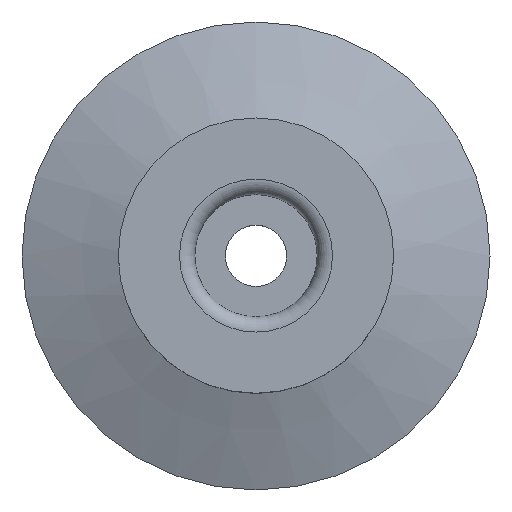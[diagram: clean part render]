
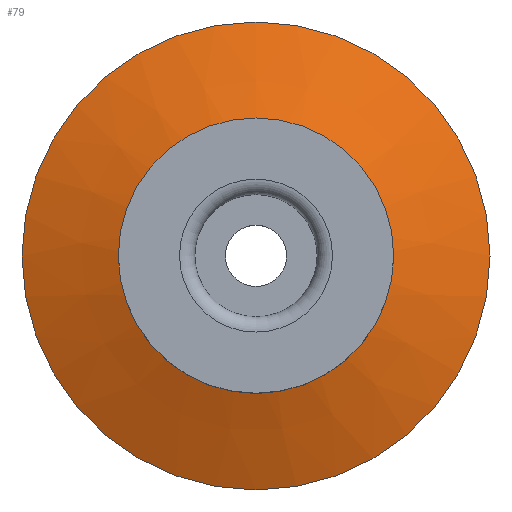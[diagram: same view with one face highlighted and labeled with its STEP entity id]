
A CAD part, top view. The second image highlights one B-rep face of the part: STEP entity #79.
In plain terms, the highlighted conical face has half-angle 69 degrees and reference radius 3.5 mm.
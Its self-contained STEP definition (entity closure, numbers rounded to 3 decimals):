
#79=ADVANCED_FACE('',(#138,#139),#140,.T.);
#138=FACE_BOUND('',#288,.T.);
#139=FACE_OUTER_BOUND('',#289,.T.);
#140=CONICAL_SURFACE('',#290,3.5,1.204);
#288=EDGE_LOOP('',(#446));
#289=EDGE_LOOP('',(#447));
#290=AXIS2_PLACEMENT_3D('',#448,#449,#450);
#446=ORIENTED_EDGE('',*,*,#682,.T.);
#447=ORIENTED_EDGE('',*,*,#680,.T.);
#448=CARTESIAN_POINT('',(0.0,0.,1.743));
#449=DIRECTION('',(0.0,0.,-1.0));
#450=DIRECTION('',(0.0,1.0,0.));
#680=EDGE_CURVE('',#734,#734,#735,.T.);
#682=EDGE_CURVE('',#738,#738,#739,.T.);
#734=VERTEX_POINT('',#834);
#735=CIRCLE('',#835,7.65);
#738=VERTEX_POINT('',#838);
#739=CIRCLE('',#839,3.821);
#834=CARTESIAN_POINT('',(0.0,-7.65,0.15));
#835=AXIS2_PLACEMENT_3D('',#938,#939,#940);
#838=CARTESIAN_POINT('',(0.0,3.821,1.62));
#839=AXIS2_PLACEMENT_3D('',#944,#945,#946);
#938=CARTESIAN_POINT('',(0.0,0.,0.15));
#939=DIRECTION('',(0.0,0.,1.0));
#940=DIRECTION('',(0.0,-1.0,0.));
#944=CARTESIAN_POINT('',(0.0,0.,1.62));
#945=DIRECTION('',(0.0,0.,-1.0));
#946=DIRECTION('',(0.0,1.0,0.));
